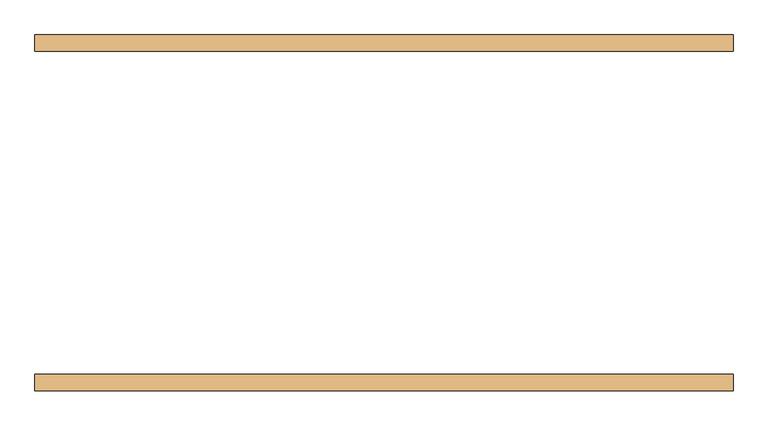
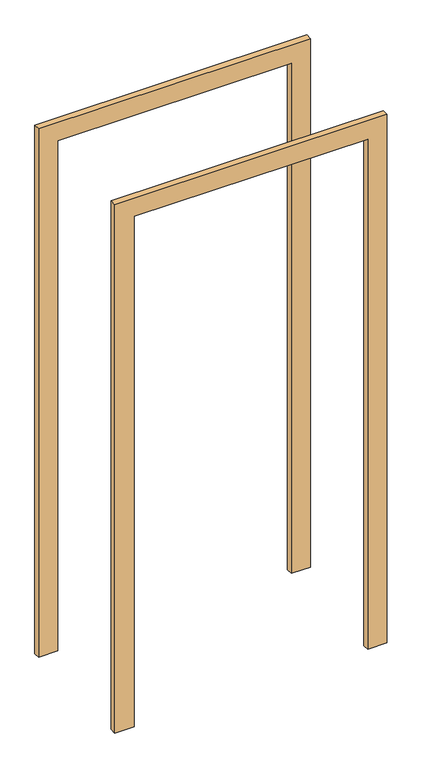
"""IFC4 building model written with IfcOpenShell, lengths in millimetres: door geometry, 2_19_Дверь_Спецификация : 2_18_Дверь_Внутрь и Наружу."""

from ifc_helpers import new_model, si_unit, frame, origin, place, context, project, spatial, polyline, outline, extrude, source, transform, mapped, element, save


def door_6f64ebb6(model_context):
    return source(origin(), model_context, "Body", "SweptSolid", [
        extrude(outline(polyline([(2100.0, -455.0), (2100.0, 455.0), (0.0, 455.0), (0.0, 530.0), (2175.0, 530.0), (2175.0, -530.0), (0.0, -530.0), (0.0, -455.0), (2100.0, -455.0)])), frame((0.0, 245.0, 0.0), z_axis=(0.0, 1.0, 0.0), x_axis=(0.0, 0.0, 1.0)), (0.0, 0.0, 1.0), 25.0),
        extrude(outline(polyline([(2175.0, -530.0), (0.0, -530.0), (0.0, -455.0), (2100.0, -455.0), (2100.0, 455.0), (0.0, 455.0), (0.0, 530.0), (2175.0, 530.0), (2175.0, -530.0)])), frame((0.0, -270.0, 0.0), z_axis=(0.0, 1.0, 0.0), x_axis=(0.0, 0.0, 1.0)), (0.0, 0.0, 1.0), 25.0),
    ])


if __name__ == "__main__":
    model = new_model("IFC4")
    model_context = context("Model", 3, world=origin())
    ifc_project = project(units=[si_unit("LENGTHUNIT", "METRE", prefix="MILLI")], contexts=[model_context])
    site = spatial("IfcSite", under=ifc_project)
    building = spatial("IfcBuilding", under=site)
    placement = place(None, origin())
    door_shape = door_6f64ebb6(model_context)
    element("IfcDoor", 1, ObjectType="2_19_Дверь_Спецификация : 2_18_Дверь_Внутрь и Наружу", at=placement, inside=building, context=model_context, shape_type="MappedRepresentation", body=[
        mapped(door_shape, transform((0.0, 0.0, 0.0), x_axis=(1.0, 0.0, 0.0), y_axis=(0.0, 1.0, 0.0), z_axis=(0.0, 0.0, 1.0))),
    ])
    save(model, "model.ifc")
